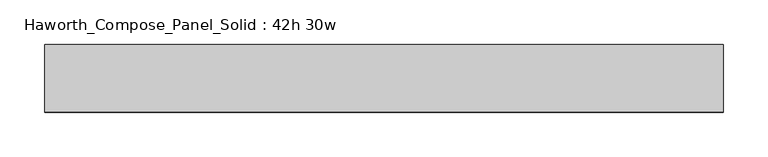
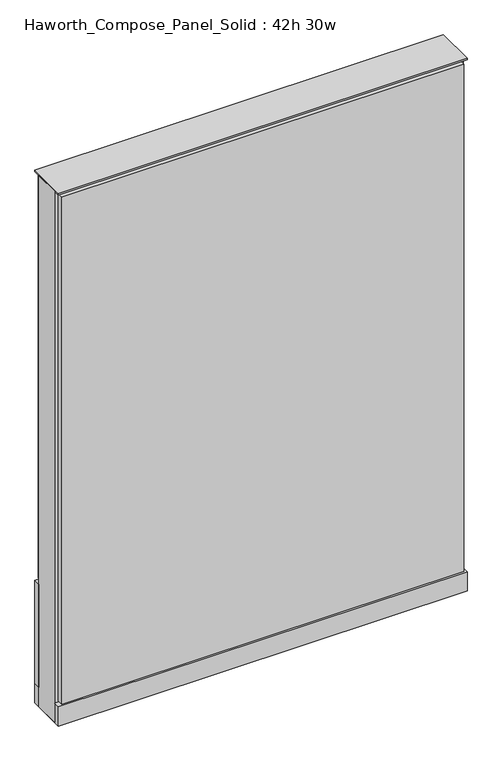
"""IFC4 building model written with IfcOpenShell, lengths in millimetres: furniture geometry, Haworth_Compose_Panel_Solid : 42h 30w."""

from ifc_helpers import new_model, si_unit, point, frame, frame_2d, origin, origin_with_axes, place, context, project, spatial, polyline, circle_curve, trimmed, segment, composite_curve, outline, extrude, source, transform, mapped, element, save


def haworth_compose_panel_solid_42h_30w_888dd31b(model_context):
    return source(origin(), model_context, "Body", "SweptSolid", [
        extrude(outline(composite_curve([segment(trimmed(circle_curve(frame_2d((-302.3597098, 0.0)), 12.7), [point((-315.0597098, 0.0))], [point((-289.6597098, 0.0))], False, "CARTESIAN"), True, "CONTINUOUS"), segment(trimmed(circle_curve(frame_2d((-302.3597098, 0.0)), 12.7), [point((-289.6597098, 0.0))], [point((-315.0597098, 0.0))], False, "CARTESIAN"), True, "CONTINUOUS")], self_intersect=False)), origin_with_axes(), (0.0, 0.0, 1.0), 12.7),
        extrude(outline(composite_curve([segment(trimmed(circle_curve(frame_2d((307.2402902, 0.0)), 12.7), [point((294.5402902, 0.0))], [point((319.9402902, 0.0))], False, "CARTESIAN"), True, "CONTINUOUS"), segment(trimmed(circle_curve(frame_2d((307.2402902, 0.0)), 12.7), [point((319.9402902, 0.0))], [point((294.5402902, 0.0))], False, "CARTESIAN"), True, "CONTINUOUS")], self_intersect=False)), origin_with_axes(), (0.0, 0.0, 1.0), 12.7),
        extrude(outline(polyline([(377.0902902, -38.1), (-372.2097098, -38.1), (-372.2097098, -25.4), (377.0902902, -25.4), (377.0902902, -38.1)])), frame((0.0, 0.0, 53.975), z_axis=(0.0, 0.0, 1.0), x_axis=(1.0, 0.0, 0.0)), (0.0, 0.0, 1.0), 1000.125),
        extrude(outline(polyline([(383.4402902, 38.1), (383.4402902, 25.4), (-378.5597098, 25.4), (-378.5597098, 38.1), (383.4402902, 38.1)])), frame((0.0, 0.0, 50.8), z_axis=(0.0, 0.0, 1.0), x_axis=(1.0, 0.0, 0.0)), (0.0, 0.0, 1.0), 203.2),
        extrude(outline(polyline([(377.0902902, 38.1), (377.0902902, 25.4), (-372.2097098, 25.4), (-372.2097098, 38.1), (377.0902902, 38.1)])), frame((0.0, 0.0, 257.175), z_axis=(0.0, 0.0, 1.0), x_axis=(1.0, 0.0, 0.0)), (0.0, 0.0, 1.0), 796.925),
        extrude(outline(polyline([(383.4402902, -25.4), (-378.5597098, -25.4), (-378.5597098, 25.4), (383.4402902, 25.4), (383.4402902, -25.4)])), frame((0.0, 0.0, 12.7), z_axis=(0.0, 0.0, 1.0), x_axis=(1.0, 0.0, 0.0)), (0.0, 0.0, 1.0), 1047.75),
        extrude(outline(polyline([(-378.5597098, 38.1), (383.4402902, 38.1), (383.4402902, -38.1), (-378.5597098, -38.1), (-378.5597098, 38.1)])), frame((0.0, 0.0, 12.7), z_axis=(0.0, 0.0, 1.0), x_axis=(1.0, 0.0, 0.0)), (0.0, 0.0, 1.0), 38.1),
        extrude(outline(polyline([(-378.5597098, 38.1), (383.4402902, 38.1), (383.4402902, -38.1), (-378.5597098, -38.1), (-378.5597098, 38.1)])), frame((0.0, 0.0, 1060.45), z_axis=(0.0, 0.0, 1.0), x_axis=(1.0, 0.0, 0.0)), (0.0, 0.0, 1.0), 3.175),
    ])


if __name__ == "__main__":
    model = new_model("IFC4")
    model_context = context("Model", 3, world=origin())
    ifc_project = project(units=[si_unit("LENGTHUNIT", "METRE", prefix="MILLI")], contexts=[model_context])
    site = spatial("IfcSite", under=ifc_project)
    building = spatial("IfcBuilding", under=site)
    placement = place(None, origin())
    haworth_compose_panel_solid_42h_30w_shape = haworth_compose_panel_solid_42h_30w_888dd31b(model_context)
    element("IfcFurniture", 1, ObjectType="Haworth_Compose_Panel_Solid : 42h 30w", at=placement, inside=building, context=model_context, shape_type="MappedRepresentation", body=[
        mapped(haworth_compose_panel_solid_42h_30w_shape, transform((0.0, 0.0, 0.0), x_axis=(1.0, 0.0, 0.0), y_axis=(0.0, 1.0, 0.0), z_axis=(0.0, 0.0, 1.0))),
    ])
    save(model, "model.ifc")
